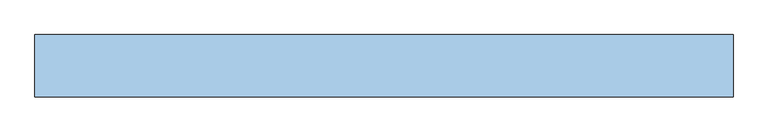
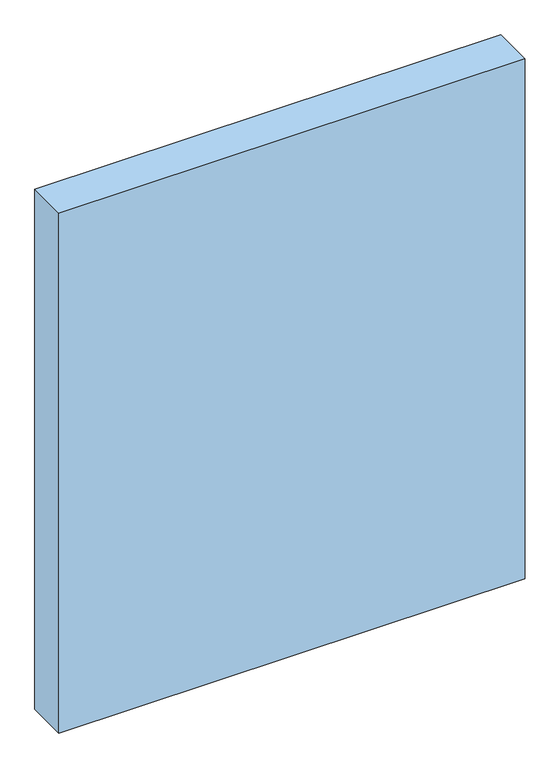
"""IFC4 building model written with IfcOpenShell, lengths in millimetres: window geometry, Dr_Проем-Четверти_об модель : ОК."""

from ifc_helpers import new_model, si_unit, frame, origin, place, context, project, spatial, polyline, outline, extrude, source, transform, mapped, element, save


def window_6c84762d(model_context):
    return source(origin(), model_context, "Body", "SweptSolid", [
        extrude(outline(polyline([(1255.0, 100.0), (1255.0, -100.0), (-985.0, -100.0), (-985.0, 100.0), (1255.0, 100.0)])), frame((0.0, 0.0, -70.0), z_axis=(0.0, 0.0, 1.0), x_axis=(1.0, 0.0, 0.0)), (0.0, 0.0, 1.0), 2640.0),
    ])


if __name__ == "__main__":
    model = new_model("IFC4")
    model_context = context("Model", 3, world=origin())
    ifc_project = project(units=[si_unit("LENGTHUNIT", "METRE", prefix="MILLI")], contexts=[model_context])
    site = spatial("IfcSite", under=ifc_project)
    building = spatial("IfcBuilding", under=site)
    placement = place(None, origin())
    window_shape = window_6c84762d(model_context)
    element("IfcWindow", 1, ObjectType="Dr_Проем-Четверти_об модель : ОК", at=placement, inside=building, context=model_context, shape_type="MappedRepresentation", body=[
        mapped(window_shape, transform((0.0, 0.0, 0.0), x_axis=(1.0, 0.0, 0.0), y_axis=(0.0, 1.0, 0.0), z_axis=(0.0, 0.0, 1.0))),
    ])
    save(model, "model.ifc")
